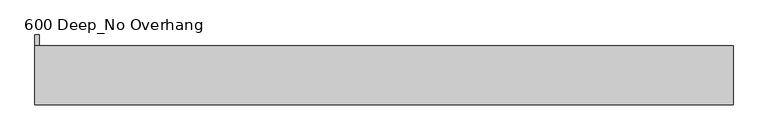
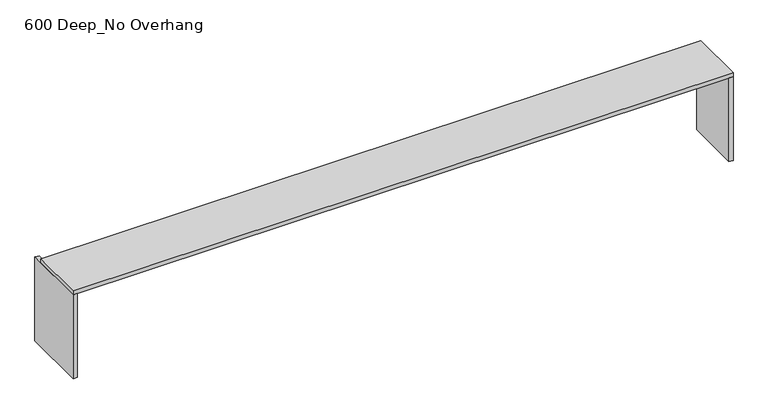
"""IFC4 building model written with IfcOpenShell, lengths in millimetres: furniture geometry, Benchtop_Optional Hole_I Shaped_CAS : 600 Deep_No Overhang."""

from ifc_helpers import new_model, si_unit, frame, origin, origin_with_axes, place, context, project, spatial, polyline, outline, extrude, source, transform, mapped, element, save


def furniture_600_deep_no_overhang_855e83f0(model_context):
    return source(origin(), model_context, "Body", "SweptSolid", [
        extrude(outline(polyline([(5204.734848, -540.0), (5204.734848, 0.0), (5244.734848, 0.0), (5244.734848, -540.0), (5204.734848, -540.0)])), origin_with_axes(), (0.0, 0.0, 1.0), 860.0),
        extrude(outline(polyline([(-1115.2996736, 100.0), (-1115.2996736, -540.0), (-1155.2996736, -540.0), (-1155.2996736, 100.0), (-1115.2996736, 100.0)])), origin_with_axes(), (0.0, 0.0, 1.0), 860.0),
        extrude(outline(polyline([(5244.734848, 0.0), (5244.734848, -540.0), (-1155.2996736, -540.0), (-1155.2996736, 0.0), (5244.734848, 0.0)])), frame((0.0, 0.0, 860.0), z_axis=(0.0, 0.0, 1.0), x_axis=(1.0, 0.0, 0.0)), (0.0, 0.0, 1.0), 40.0),
    ])


if __name__ == "__main__":
    model = new_model("IFC4")
    model_context = context("Model", 3, world=origin())
    ifc_project = project(units=[si_unit("LENGTHUNIT", "METRE", prefix="MILLI")], contexts=[model_context])
    site = spatial("IfcSite", under=ifc_project)
    building = spatial("IfcBuilding", under=site)
    placement = place(None, origin())
    furniture_600_deep_no_overhang_shape = furniture_600_deep_no_overhang_855e83f0(model_context)
    element("IfcFurniture", 1, ObjectType="Benchtop_Optional Hole_I Shaped_CAS : 600 Deep_No Overhang", at=placement, inside=building, context=model_context, shape_type="MappedRepresentation", body=[
        mapped(furniture_600_deep_no_overhang_shape, transform((0.0, 0.0, 0.0), x_axis=(1.0, 0.0, 0.0), y_axis=(0.0, 1.0, 0.0), z_axis=(0.0, 0.0, 1.0))),
    ])
    save(model, "model.ifc")
